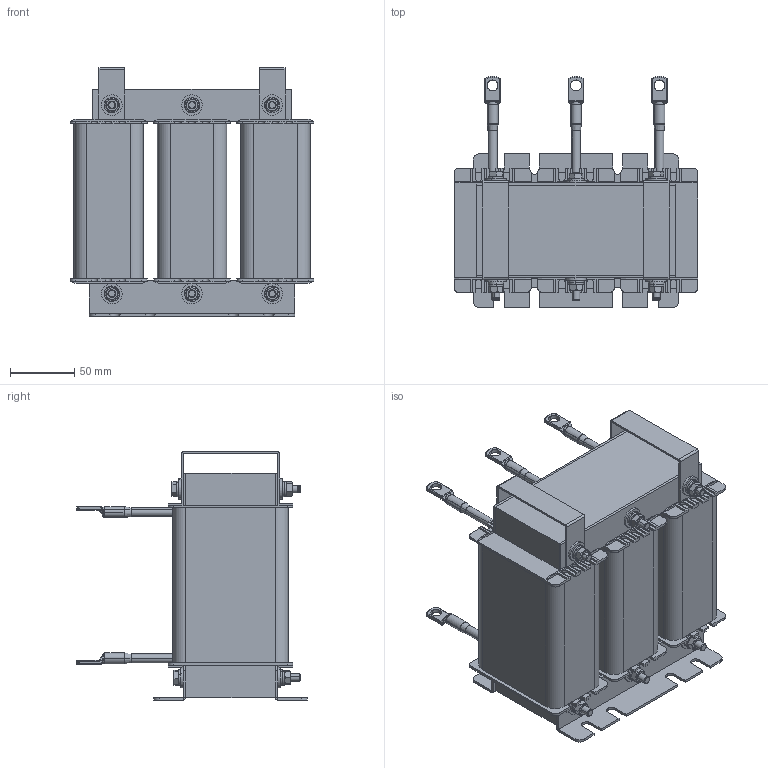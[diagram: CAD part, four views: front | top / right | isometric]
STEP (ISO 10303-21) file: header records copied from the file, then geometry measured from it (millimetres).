
FILE_DESCRIPTION (( 'STEP AP203' ), '1' );
FILE_NAME ('90-4.STEP', '2026-07-09T10:50:43', ( '' ), ( '' ), 'SwSTEP 2.0', 'SolidWorks 2021', '' );
FILE_SCHEMA (( 'CONFIG_CONTROL_DESIGN' ));
Length unit declared in the file: millimetre
Products named in the file (15): Øàéáà ïðóæèííàÿ DIN 127 (A)_Œ6; 栫謱毿膻獥45-55; Èçîëÿòîð êàòóøêè_45-55; 忺覷齆趌45-55; Ïëàñòèíà ïðèæèìíàÿ_45-55; 咈櫡_22-55; Âûâîä êàòóøêè_45-55; 90-4; Ñêîáà òàêåëàæíàÿ_45-55; Áîëò DIN 933_Œ6å95 (-); Êàòóøêà ñ âûâîäàìè_45-55; Ãàéêà DIN 934_Œ6; Øàéáà ïëîñêàÿ DIN 125 (A)_Œ6; 侲膰翴籦鴀_22-55; Øàéáà ïëîñêàÿ DIN 9021_Œ6
Assembly tree (63 placements, depth 3):
  90-4
    咈櫡_22-55  x2
    Èçîëÿòîð êàòóøêè_45-55  x6
    Êàòóøêà ñ âûâîäàìè_45-55  x3
      忺覷齆趌45-55
      Âûâîä êàòóøêè_45-55
      侲膰翴籦鴀_22-55
    Ïëàñòèíà ïðèæèìíàÿ_45-55  x2
    Ñêîáà òàêåëàæíàÿ_45-55  x2
    栫謱毿膻獥45-55
    Øàéáà ïëîñêàÿ DIN 9021_Œ6  x12
    Øàéáà ïëîñêàÿ DIN 125 (A)_Œ6  x12
    Øàéáà ïðóæèííàÿ DIN 127 (A)_Œ6  x6
    Ãàéêà DIN 934_Œ6  x6
    Áîëò DIN 933_Œ6å95 (-)  x6
Bounding box: 190 x 180 x 193.5 mm (x, y, z)
Volume: 2428437.7 mm3; surface area: 483005 mm2
Topology: 70 solids, 70 shells, 1700 faces, 4098 edges, 2520 vertices
Faces by surface type: plane 872, cylinder 480, cone 198, bspline 84, torus 42, sphere 24
Entity records: 14338 total; most frequent: CARTESIAN_POINT 3039, DIRECTION 1808, ORIENTED_EDGE 1686, EDGE_CURVE 843, AXIS2_PLACEMENT_3D 639, LINE 530, VECTOR 530, VERTEX_POINT 528
